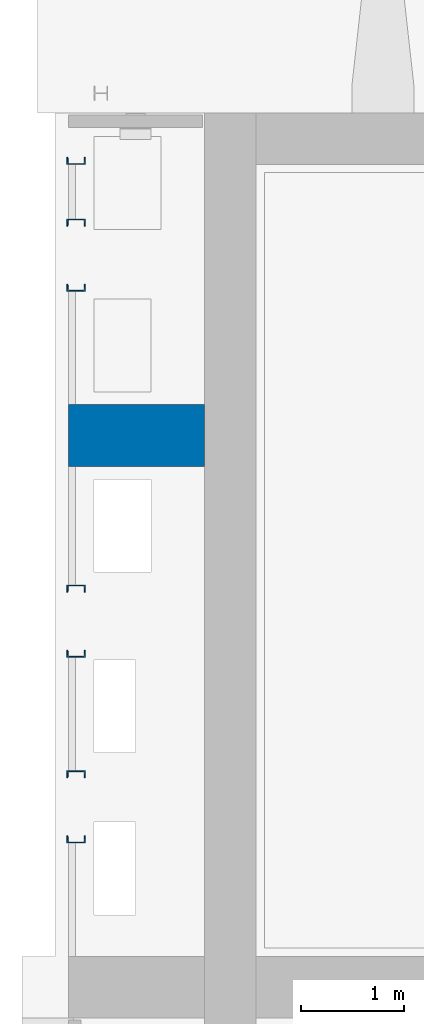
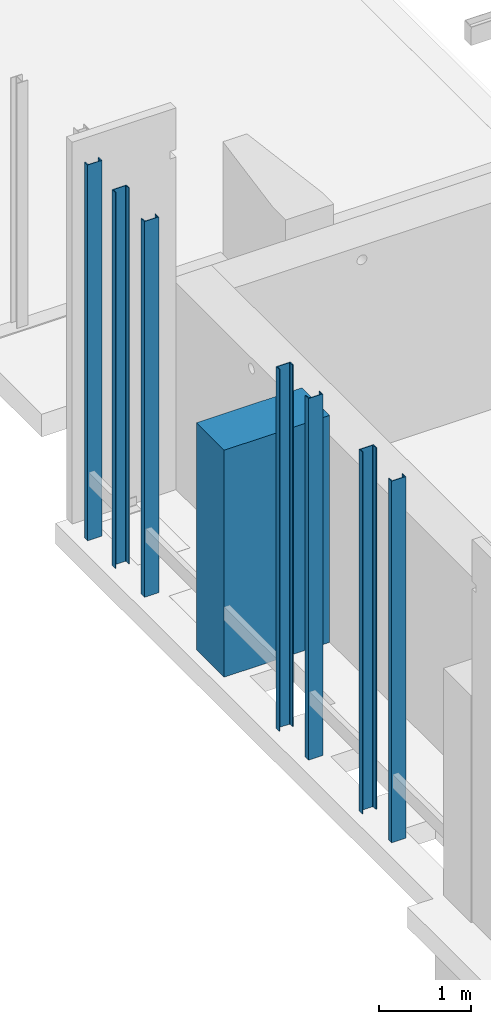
# One storey, part 2 of 31: 8 columns.
"""IFC2X3 building model written with IfcOpenShell, lengths in millimetres."""

from ifc_helpers import new_model, entity, si_unit, converted_unit, derived_unit, direction, frame, frame_2d, origin, place, context, subcontext, project, spatial, polyline, circle_curve, parameter, trimmed, segment, composite_curve, rectangle, outline, extrude, source, transform, mapped, material, type_object, type_shapes, element, save


model = new_model("IFC2X3")

# Units and contexts
model_context = context("Model", 3, precision=0.01, world=origin(), true_north=direction((6.12303176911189e-17, 1.0)))
body_context = subcontext(model_context, "Body", "Model", "MODEL_VIEW")
ifc_project = project(units=[si_unit("LENGTHUNIT", "METRE", prefix="MILLI"), si_unit("AREAUNIT", "SQUARE_METRE"), si_unit("VOLUMEUNIT", "CUBIC_METRE"), converted_unit("PLANEANGLEUNIT", "DEGREE", entity("IfcRatioMeasure", 0.0174532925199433), si_unit("PLANEANGLEUNIT", "RADIAN"), dimensions=[0, 0, 0, 0, 0, 0, 0]), si_unit("MASSUNIT", "GRAM", prefix="KILO"), derived_unit("MASSDENSITYUNIT", [(si_unit("MASSUNIT", "GRAM", prefix="KILO"), 1), (si_unit("LENGTHUNIT", "METRE"), -3)]), si_unit("TIMEUNIT", "SECOND"), si_unit("FREQUENCYUNIT", "HERTZ"), si_unit("THERMODYNAMICTEMPERATUREUNIT", "DEGREE_CELSIUS"), derived_unit("THERMALTRANSMITTANCEUNIT", [(si_unit("MASSUNIT", "GRAM", prefix="KILO"), 1), (si_unit("THERMODYNAMICTEMPERATUREUNIT", "KELVIN"), -1), (si_unit("TIMEUNIT", "SECOND"), -3)]), derived_unit("VOLUMETRICFLOWRATEUNIT", [(si_unit("LENGTHUNIT", "METRE"), 3), (si_unit("TIMEUNIT", "SECOND"), -1)]), si_unit("ELECTRICCURRENTUNIT", "AMPERE"), si_unit("ELECTRICVOLTAGEUNIT", "VOLT"), si_unit("POWERUNIT", "WATT"), si_unit("FORCEUNIT", "NEWTON", prefix="KILO"), si_unit("ILLUMINANCEUNIT", "LUX"), si_unit("LUMINOUSFLUXUNIT", "LUMEN"), si_unit("LUMINOUSINTENSITYUNIT", "CANDELA"), derived_unit("USERDEFINED", [(si_unit("MASSUNIT", "GRAM", prefix="KILO"), -1), (si_unit("LENGTHUNIT", "METRE"), -2), (si_unit("TIMEUNIT", "SECOND"), 3), (si_unit("LUMINOUSFLUXUNIT", "LUMEN"), 1)]), derived_unit("LINEARVELOCITYUNIT", [(si_unit("LENGTHUNIT", "METRE"), 1), (si_unit("TIMEUNIT", "SECOND"), -1)]), si_unit("PRESSUREUNIT", "PASCAL"), derived_unit("USERDEFINED", [(si_unit("LENGTHUNIT", "METRE"), -2), (si_unit("MASSUNIT", "GRAM", prefix="KILO"), 1), (si_unit("TIMEUNIT", "SECOND"), -2)])], contexts=[model_context])

# Site, building, storey
site_placement = place(None, origin())
site = spatial("IfcSite", under=ifc_project, at=site_placement, Name="Default", CompositionType="ELEMENT")
building_placement = place(site_placement, origin())
building = spatial("IfcBuilding", under=site, at=building_placement, Name="niet gebruiken", CompositionType="ELEMENT")
storey_placement = place(building_placement, frame((0.0, 0.0, 12000.0)))
storey = spatial("IfcBuildingStorey", under=building, at=storey_placement, Name="03 derde verdieping", CompositionType="ELEMENT", Elevation=12000.0)

# Columns
ifc_material_1 = material(Name="NLRS_f2_beton ihwg")
column_type_1 = type_object("IfcColumnType", Name="600x1320", PredefinedType="COLUMN", material=ifc_material_1)
shared_shape_1 = source(origin(), body_context, "Body", "SweptSolid", [
    extrude(rectangle(XDim=599.999999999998, YDim=1319.99999999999, at=frame_2d((0.0, -1.73372427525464e-11), x_axis=(1.0, 0.0))), frame((125360.0, 30100.0, 11910.0), z_axis=(0.0, 0.0, 1.0), x_axis=(0.0, -1.0, 0.0)), (0.0, 0.0, 1.0), 3000.0),
])
type_shapes(column_type_1, [shared_shape_1])
column_1_placement = place(storey_placement, frame((0.0, 0.0, -12000.0)))
element("IfcColumn", 1, at=column_1_placement, inside=storey, type_object=column_type_1, material=ifc_material_1, Name="NLRS_28.11_SCO_TLB_beton kolom ihwg_gen:600x1320", ObjectType="600x1320", context=body_context, shape_type="MappedRepresentation", body=[
    mapped(shared_shape_1, transform((0.0, 0.0, 0.0), scale=1.0)),
])
ifc_material_2 = material(Name="NLRS_h2_staal")
column_type_2 = type_object("IfcColumnType", Name="kolom UNP 180", PredefinedType="COLUMN", material=ifc_material_2)
shared_shape_2 = source(origin(), body_context, "Body", "SweptSolid", [
    extrude(outline(composite_curve([segment(polyline([(-90.1037499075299, -38.5833333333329), (89.8962500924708, -38.5833333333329)]), True, "CONTINUOUS"), segment(polyline([(89.8962500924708, -38.5833333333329), (89.8962500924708, 31.4166666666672)]), True, "CONTINUOUS"), segment(polyline([(89.8962500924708, 31.4166666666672), (84.9358544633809, 31.4166666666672)]), True, "CONTINUOUS"), segment(trimmed(circle_curve(frame_2d((84.9358544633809, 25.9166666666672), x_axis=(0.0, 1.0)), 5.50000000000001), [parameter(0.0)], [parameter(90.0)], True, "PARAMETER"), True, "CONTINUOUS"), segment(polyline([(79.4358544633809, 25.9166666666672), (77.3420483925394, -19.5833333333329)]), True, "CONTINUOUS"), segment(trimmed(circle_curve(frame_2d((66.3420483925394, -19.5833333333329), x_axis=(1.0, 0.0)), 11.0), [parameter(270.0)], [parameter(0.0)], True, "PARAMETER"), False, "CONTINUOUS"), segment(polyline([(66.3420483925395, -30.5833333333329), (-65.9495563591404, -30.5833333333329)]), True, "CONTINUOUS"), segment(trimmed(circle_curve(frame_2d((-65.9495563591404, -19.5833333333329), x_axis=(0.0, -1.0)), 11.0), [parameter(270.0)], [parameter(0.0)], True, "PARAMETER"), False, "CONTINUOUS"), segment(polyline([(-76.9495563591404, -19.5833333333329), (-79.6208466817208, 25.9166666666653)]), True, "CONTINUOUS"), segment(trimmed(circle_curve(frame_2d((-85.1208466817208, 25.9166666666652), x_axis=(1.0, 0.0)), 5.5), [parameter(0.0)], [parameter(90.0000000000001)], True, "PARAMETER"), True, "CONTINUOUS"), segment(polyline([(-85.1208466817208, 31.4166666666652), (-90.1037499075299, 31.4166666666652)]), True, "CONTINUOUS"), segment(polyline([(-90.1037499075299, 31.4166666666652), (-90.1037499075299, -38.5833333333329)]), True, "CONTINUOUS")], self_intersect=False)), frame((19.2833333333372, -0.103749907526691, 11940.0), z_axis=(0.0, 0.0, 1.0), x_axis=(0.0, -1.0, 0.0)), (0.0, 0.0, 1.0), 4779.00000000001),
])
type_shapes(column_type_2, [shared_shape_2])
for number, where, z_axis, x_axis, name in (
    (2, (124775.0, 26169.3, -12000.0), (0.0, 0.0, 1.0), (0.0, 1.0, 0.0), "NLRS_28.11_SCO_TLB_stalen kolom UNP_gen:kolom UNP 180"),
    (3, (124775.0, 27969.2999999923, -12000.0), (0.0, 0.0, 1.0), (0.0, 1.0, 0.0), "NLRS_28.11_SCO_TLB_stalen kolom UNP_gen:kolom UNP 180"),
):
    element("IfcColumn", number, at=place(storey_placement, frame(where, z_axis=z_axis, x_axis=x_axis)), inside=storey, type_object=column_type_2, material=ifc_material_2, Name=name, ObjectType="kolom UNP 180", context=body_context, shape_type="MappedRepresentation", body=[
        mapped(shared_shape_2, transform((0.0, 0.0, 0.0), scale=1.0)),
    ])
column_type_3 = type_object("IfcColumnType", Name="kolom UNP 180", PredefinedType="COLUMN", material=ifc_material_2)
shared_shape_3 = source(origin(), body_context, "Body", "SweptSolid", [
    extrude(outline(composite_curve([segment(polyline([(-89.8962500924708, -38.5833333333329), (90.1037499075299, -38.5833333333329)]), True, "CONTINUOUS"), segment(polyline([(90.1037499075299, -38.5833333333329), (90.1037499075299, 31.4166666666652)]), True, "CONTINUOUS"), segment(polyline([(90.1037499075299, 31.4166666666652), (85.1208466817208, 31.4166666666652)]), True, "CONTINUOUS"), segment(trimmed(circle_curve(frame_2d((85.1208466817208, 25.9166666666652), x_axis=(0.0, 1.0)), 5.5), [parameter(0.0)], [parameter(90.0000000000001)], True, "PARAMETER"), True, "CONTINUOUS"), segment(polyline([(79.6208466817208, 25.9166666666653), (76.9495563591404, -19.5833333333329)]), True, "CONTINUOUS"), segment(trimmed(circle_curve(frame_2d((65.9495563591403, -19.5833333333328), x_axis=(1.0, 0.0)), 11.0), [parameter(270.0)], [parameter(0.0)], True, "PARAMETER"), False, "CONTINUOUS"), segment(polyline([(65.9495563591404, -30.5833333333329), (-66.3420483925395, -30.5833333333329)]), True, "CONTINUOUS"), segment(trimmed(circle_curve(frame_2d((-66.3420483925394, -19.5833333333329), x_axis=(0.0, -1.0)), 11.0), [parameter(270.0)], [parameter(0.0)], True, "PARAMETER"), False, "CONTINUOUS"), segment(polyline([(-77.3420483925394, -19.5833333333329), (-79.4358544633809, 25.9166666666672)]), True, "CONTINUOUS"), segment(trimmed(circle_curve(frame_2d((-84.9358544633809, 25.9166666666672), x_axis=(1.0, 0.0)), 5.50000000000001), [parameter(0.0)], [parameter(90.0)], True, "PARAMETER"), True, "CONTINUOUS"), segment(polyline([(-84.9358544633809, 31.4166666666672), (-89.8962500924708, 31.4166666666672)]), True, "CONTINUOUS"), segment(polyline([(-89.8962500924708, 31.4166666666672), (-89.8962500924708, -38.5833333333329)]), True, "CONTINUOUS")], self_intersect=False)), frame((19.2833333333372, 0.103749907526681, 11940.0), z_axis=(0.0, 0.0, 1.0), x_axis=(0.0, -1.0, 0.0)), (0.0, 0.0, 1.0), 4779.00000000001),
])
type_shapes(column_type_3, [shared_shape_3])
for number, where, z_axis, x_axis, name in (
    (4, (124775.0, 26830.6999999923, -12000.0), (0.0, 0.0, 1.0), (0.0, -1.0, 0.0), "NLRS_28.11_SCO_TLB_stalen kolom UNP_gen:kolom UNP 180"),
    (5, (124775.0, 28630.7000000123, -12000.0), (0.0, 0.0, 1.0), (0.0, -1.0, 0.0), "NLRS_28.11_SCO_TLB_stalen kolom UNP_gen:kolom UNP 180"),
):
    element("IfcColumn", number, at=place(storey_placement, frame(where, z_axis=z_axis, x_axis=x_axis)), inside=storey, type_object=column_type_3, material=ifc_material_2, Name=name, ObjectType="kolom UNP 180", context=body_context, shape_type="MappedRepresentation", body=[
        mapped(shared_shape_3, transform((0.0, 0.0, 0.0), scale=1.0)),
    ])
column_type_4 = type_object("IfcColumnType", Name="kolom UNP 180", PredefinedType="COLUMN", material=ifc_material_2)
shared_shape_4 = source(origin(), body_context, "Body", "SweptSolid", [
    extrude(outline(composite_curve([segment(polyline([(-90.1037499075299, -38.5833333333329), (89.8962500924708, -38.5833333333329)]), True, "CONTINUOUS"), segment(polyline([(89.8962500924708, -38.5833333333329), (89.8962500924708, 31.4166666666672)]), True, "CONTINUOUS"), segment(polyline([(89.8962500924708, 31.4166666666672), (84.9358544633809, 31.4166666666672)]), True, "CONTINUOUS"), segment(trimmed(circle_curve(frame_2d((84.9358544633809, 25.9166666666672), x_axis=(0.0, 1.0)), 5.50000000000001), [parameter(0.0)], [parameter(90.0)], True, "PARAMETER"), True, "CONTINUOUS"), segment(polyline([(79.4358544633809, 25.9166666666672), (77.3420483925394, -19.5833333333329)]), True, "CONTINUOUS"), segment(trimmed(circle_curve(frame_2d((66.3420483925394, -19.5833333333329), x_axis=(1.0, 0.0)), 11.0), [parameter(270.0)], [parameter(0.0)], True, "PARAMETER"), False, "CONTINUOUS"), segment(polyline([(66.3420483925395, -30.5833333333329), (-65.9495563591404, -30.5833333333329)]), True, "CONTINUOUS"), segment(trimmed(circle_curve(frame_2d((-65.9495563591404, -19.5833333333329), x_axis=(0.0, -1.0)), 11.0), [parameter(270.0)], [parameter(0.0)], True, "PARAMETER"), False, "CONTINUOUS"), segment(polyline([(-76.9495563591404, -19.5833333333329), (-79.6208466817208, 25.9166666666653)]), True, "CONTINUOUS"), segment(trimmed(circle_curve(frame_2d((-85.1208466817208, 25.9166666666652), x_axis=(1.0, 0.0)), 5.5), [parameter(0.0)], [parameter(90.0000000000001)], True, "PARAMETER"), True, "CONTINUOUS"), segment(polyline([(-85.1208466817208, 31.4166666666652), (-90.1037499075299, 31.4166666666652)]), True, "CONTINUOUS"), segment(polyline([(-90.1037499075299, 31.4166666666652), (-90.1037499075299, -38.5833333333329)]), True, "CONTINUOUS")], self_intersect=False)), frame((19.2833333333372, -0.103749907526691, 11940.0), z_axis=(0.0, 0.0, 1.0), x_axis=(0.0, -1.0, 0.0)), (0.0, 0.0, 1.0), 4966.00000000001),
])
type_shapes(column_type_4, [shared_shape_4])
for number, where, z_axis, x_axis, name in (
    (6, (124775.0, 31519.2999999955, -12000.0), (0.0, 0.0, 1.0), (0.0, 1.0, 0.0), "NLRS_28.11_SCO_TLB_stalen kolom UNP_gen:kolom UNP 180"),
    (7, (124775.0, 32750.2999999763, -12000.0), (0.0, 0.0, 1.0), (0.0, 1.0, 0.0), "NLRS_28.11_SCO_TLB_stalen kolom UNP_gen:kolom UNP 180"),
):
    element("IfcColumn", number, at=place(storey_placement, frame(where, z_axis=z_axis, x_axis=x_axis)), inside=storey, type_object=column_type_4, material=ifc_material_2, Name=name, ObjectType="kolom UNP 180", context=body_context, shape_type="MappedRepresentation", body=[
        mapped(shared_shape_4, transform((0.0, 0.0, 0.0), scale=1.0)),
    ])
column_type_5 = type_object("IfcColumnType", Name="kolom UNP 180", PredefinedType="COLUMN", material=ifc_material_2)
shared_shape_5 = source(origin(), body_context, "Body", "SweptSolid", [
    extrude(outline(composite_curve([segment(polyline([(-89.8962500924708, -38.5833333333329), (90.1037499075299, -38.5833333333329)]), True, "CONTINUOUS"), segment(polyline([(90.1037499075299, -38.5833333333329), (90.1037499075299, 31.4166666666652)]), True, "CONTINUOUS"), segment(polyline([(90.1037499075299, 31.4166666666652), (85.1208466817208, 31.4166666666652)]), True, "CONTINUOUS"), segment(trimmed(circle_curve(frame_2d((85.1208466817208, 25.9166666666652), x_axis=(0.0, 1.0)), 5.5), [parameter(0.0)], [parameter(90.0000000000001)], True, "PARAMETER"), True, "CONTINUOUS"), segment(polyline([(79.6208466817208, 25.9166666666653), (76.9495563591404, -19.5833333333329)]), True, "CONTINUOUS"), segment(trimmed(circle_curve(frame_2d((65.9495563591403, -19.5833333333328), x_axis=(1.0, 0.0)), 11.0), [parameter(270.0)], [parameter(0.0)], True, "PARAMETER"), False, "CONTINUOUS"), segment(polyline([(65.9495563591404, -30.5833333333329), (-66.3420483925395, -30.5833333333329)]), True, "CONTINUOUS"), segment(trimmed(circle_curve(frame_2d((-66.3420483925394, -19.5833333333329), x_axis=(0.0, -1.0)), 11.0), [parameter(270.0)], [parameter(0.0)], True, "PARAMETER"), False, "CONTINUOUS"), segment(polyline([(-77.3420483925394, -19.5833333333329), (-79.4358544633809, 25.9166666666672)]), True, "CONTINUOUS"), segment(trimmed(circle_curve(frame_2d((-84.9358544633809, 25.9166666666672), x_axis=(1.0, 0.0)), 5.50000000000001), [parameter(0.0)], [parameter(90.0)], True, "PARAMETER"), True, "CONTINUOUS"), segment(polyline([(-84.9358544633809, 31.4166666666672), (-89.8962500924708, 31.4166666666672)]), True, "CONTINUOUS"), segment(polyline([(-89.8962500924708, 31.4166666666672), (-89.8962500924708, -38.5833333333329)]), True, "CONTINUOUS")], self_intersect=False)), frame((19.2833333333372, 0.103749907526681, 11940.0), z_axis=(0.0, 0.0, 1.0), x_axis=(0.0, -1.0, 0.0)), (0.0, 0.0, 1.0), 4966.00000000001),
])
type_shapes(column_type_5, [shared_shape_5])
column_2_placement = place(storey_placement, frame((124775.0, 32180.7000000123, -12000.0), z_axis=(0.0, 0.0, 1.0), x_axis=(0.0, -1.0, 0.0)))
element("IfcColumn", 8, at=column_2_placement, inside=storey, type_object=column_type_5, material=ifc_material_2, Name="NLRS_28.11_SCO_TLB_stalen kolom UNP_gen:kolom UNP 180", ObjectType="kolom UNP 180", context=body_context, shape_type="MappedRepresentation", body=[
    mapped(shared_shape_5, transform((0.0, 0.0, 0.0), scale=1.0)),
])

save(model, "model.ifc")
